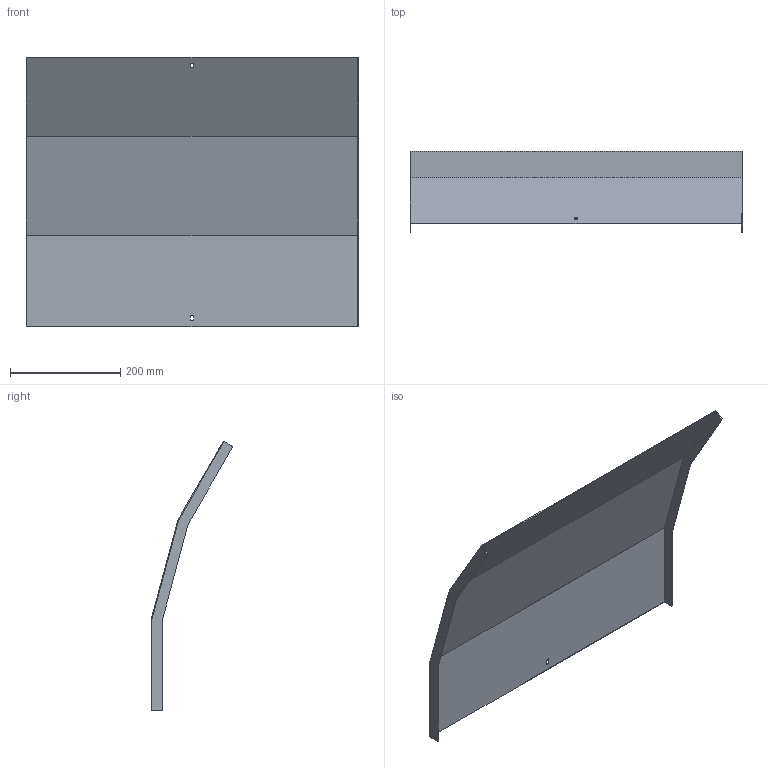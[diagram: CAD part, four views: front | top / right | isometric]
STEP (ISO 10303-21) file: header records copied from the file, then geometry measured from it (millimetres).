
FILE_DESCRIPTION (( 'STEP AP214' ), '1' );
FILE_NAME ('A2_35N3D600.step', '2025-02-21T10:30:54', ( '' ), ( '' ), 'SwSTEP 2.0', 'SolidWorks 2023', '' );
FILE_SCHEMA (( 'AUTOMOTIVE_DESIGN' ));
Length unit declared in the file: millimetre
Products named in the file (1): A2_35N3D600
Bounding box: 603 x 148.61 x 489.96 mm (x, y, z)
Volume: 496944 mm3; surface area: 666130.2 mm2
Topology: 1 solids, 1 shells, 26 faces, 72 edges, 48 vertices
Faces by surface type: plane 26
Entity records: 847 total; most frequent: CARTESIAN_POINT 147, ORIENTED_EDGE 144, DIRECTION 126, VECTOR 72, LINE 72, EDGE_CURVE 72, VERTEX_POINT 48, EDGE_LOOP 30
